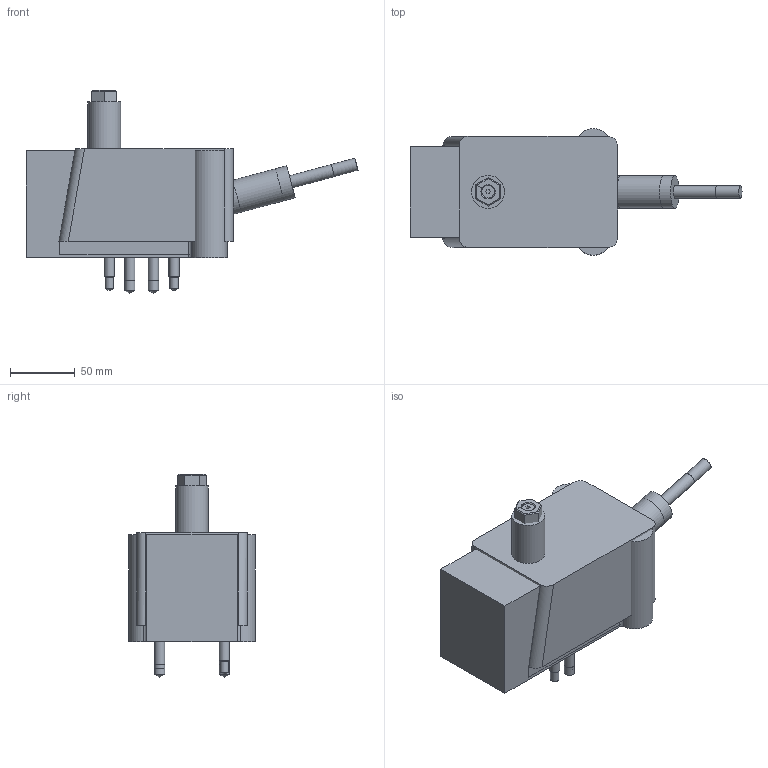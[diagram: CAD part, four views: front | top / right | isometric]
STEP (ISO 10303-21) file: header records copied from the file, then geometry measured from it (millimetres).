
FILE_DESCRIPTION(('STEP AP214'),'1');
FILE_NAME('0011_EZ-15-S_201209.stp','2020-12-14T12:22:37',(' '),(' '),'Spatial InterOp 3D',' ',' ');
FILE_SCHEMA(('AUTOMOTIVE_DESIGN { 1 0 10303 214 1 1 1 1 }'));
Length unit declared in the file: metre
Products named in the file (18): 1583758620; 1583159039; 1580702734; 1580691960; 1580700033; 1580688335; 1580688599; 1580688640; 1580689014; 1580689030; 1580689046; 1580689062; 1580689236; 1580689244; 1562100740; 1562099358; 1607689771; 1
Bounding box: 256.63 x 97.7 x 156.95 mm (x, y, z)
Volume: 2484038.8 mm3; surface area: 232490.3 mm2
Topology: 17 solids, 17 shells, 252 faces, 554 edges, 356 vertices
Faces by surface type: plane 141, cylinder 63, cone 36, torus 6, bspline 4, sphere 2
Full cylindrical faces by diameter (mm): 3.797 x1, 4.089 x1, 4.826 x3, 5.159 x1, 6.35 x1, 6.528 x2, 7.938 x11, 8.433 x1, 8.5 x2, 8.731 x1, 9.5 x1, 9.525 x4, 11.906 x2, 12.7 x3, 14.25 x2, 15.875 x1, 25.146 x1, 25.4 x1, 25.527 x1, 26.746 x2, 26.924 x3, 50.292 x1, 50.8 x1
Entity records: 18938 total; most frequent: CARTESIAN_POINT 11548, DIRECTION 1115, ORIENTED_EDGE 856, AXIS2_PLACEMENT_3D 436, EDGE_CURVE 428, EDGE_LOOP 375, VERTEX_POINT 325, FACE_OUTER_BOUND 305
